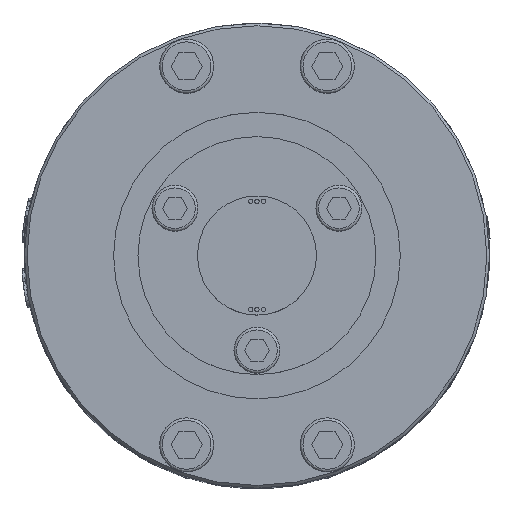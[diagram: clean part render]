
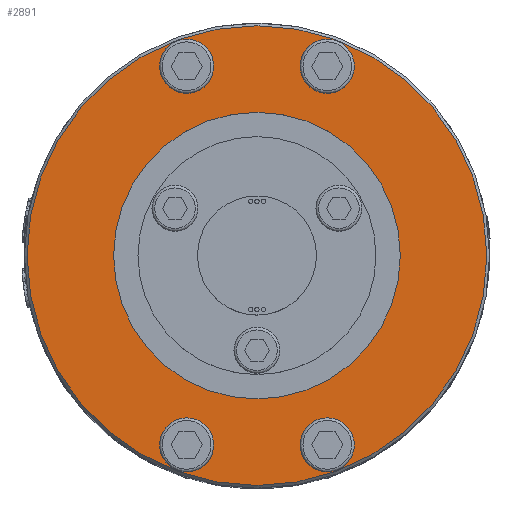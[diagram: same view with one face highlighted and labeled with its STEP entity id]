
A CAD part, top view. The second image highlights one B-rep face of the part: STEP entity #2891.
In plain terms, the highlighted planar face has unit normal (0, 0, 1).
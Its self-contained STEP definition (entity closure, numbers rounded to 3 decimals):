
#505=FACE_BOUND('',#6091,.T.);
#506=FACE_BOUND('',#6092,.T.);
#507=FACE_BOUND('',#6093,.T.);
#508=FACE_BOUND('',#6094,.T.);
#509=FACE_BOUND('',#6095,.T.);
#510=FACE_BOUND('',#6096,.T.);
#674=CIRCLE('',#24973,5.);
#677=CIRCLE('',#24986,5.);
#680=CIRCLE('',#24999,5.);
#683=CIRCLE('',#25012,5.);
#710=CIRCLE('',#25088,26.5);
#712=CIRCLE('',#25092,42.5);
#2891=ADVANCED_FACE('',(#505,#506,#507,#508,#509,#510),#3359,.T.);
#3359=PLANE('',#25096);
#6091=EDGE_LOOP('',(#14917));
#6092=EDGE_LOOP('',(#14918));
#6093=EDGE_LOOP('',(#14919));
#6094=EDGE_LOOP('',(#14920));
#6095=EDGE_LOOP('',(#14921));
#6096=EDGE_LOOP('',(#14922));
#14917=ORIENTED_EDGE('',*,*,#20700,.F.);
#14918=ORIENTED_EDGE('',*,*,#20721,.F.);
#14919=ORIENTED_EDGE('',*,*,#20742,.F.);
#14920=ORIENTED_EDGE('',*,*,#20763,.F.);
#14921=ORIENTED_EDGE('',*,*,#20844,.T.);
#14922=ORIENTED_EDGE('',*,*,#20846,.T.);
#17220=VERTEX_POINT('',#50748);
#17235=VERTEX_POINT('',#50794);
#17250=VERTEX_POINT('',#50840);
#17265=VERTEX_POINT('',#50886);
#17328=VERTEX_POINT('',#51079);
#17330=VERTEX_POINT('',#51085);
#20700=EDGE_CURVE('',#17220,#17220,#674,.T.);
#20721=EDGE_CURVE('',#17235,#17235,#677,.T.);
#20742=EDGE_CURVE('',#17250,#17250,#680,.T.);
#20763=EDGE_CURVE('',#17265,#17265,#683,.T.);
#20844=EDGE_CURVE('',#17328,#17328,#710,.T.);
#20846=EDGE_CURVE('',#17330,#17330,#712,.T.);
#24973=AXIS2_PLACEMENT_3D('',#50747,#27651,#27652);
#24986=AXIS2_PLACEMENT_3D('',#50793,#27695,#27696);
#24999=AXIS2_PLACEMENT_3D('',#50839,#27739,#27740);
#25012=AXIS2_PLACEMENT_3D('',#50885,#27783,#27784);
#25088=AXIS2_PLACEMENT_3D('',#51078,#27989,#27990);
#25092=AXIS2_PLACEMENT_3D('',#51084,#27997,#27998);
#25096=AXIS2_PLACEMENT_3D('',#51090,#28005,#28006);
#27651=DIRECTION('',(0.,0.,1.));
#27652=DIRECTION('',(-1.,0.,0.));
#27695=DIRECTION('',(0.,0.,1.));
#27696=DIRECTION('',(-1.,0.,0.));
#27739=DIRECTION('',(0.,0.,1.));
#27740=DIRECTION('',(-1.,0.,0.));
#27783=DIRECTION('',(0.,0.,1.));
#27784=DIRECTION('',(-1.,0.,0.));
#27989=DIRECTION('',(0.,0.,-1.));
#27990=DIRECTION('',(1.,0.,0.));
#27997=DIRECTION('',(0.,0.,1.));
#27998=DIRECTION('',(1.,0.,0.));
#28005=DIRECTION('',(0.,0.,1.));
#28006=DIRECTION('',(1.,0.,0.));
#50747=CARTESIAN_POINT('',(13.,35.,111.));
#50748=CARTESIAN_POINT('',(8.,35.,111.));
#50793=CARTESIAN_POINT('',(-13.,35.,111.));
#50794=CARTESIAN_POINT('',(-18.,35.,111.));
#50839=CARTESIAN_POINT('',(-13.,-35.,111.));
#50840=CARTESIAN_POINT('',(-18.,-35.,111.));
#50885=CARTESIAN_POINT('',(13.,-35.,111.));
#50886=CARTESIAN_POINT('',(8.,-35.,111.));
#51078=CARTESIAN_POINT('',(0.,0.,111.));
#51079=CARTESIAN_POINT('',(26.5,0.,111.));
#51084=CARTESIAN_POINT('',(0.,0.,111.));
#51085=CARTESIAN_POINT('',(42.5,0.,111.));
#51090=CARTESIAN_POINT('',(0.,0.,111.));
